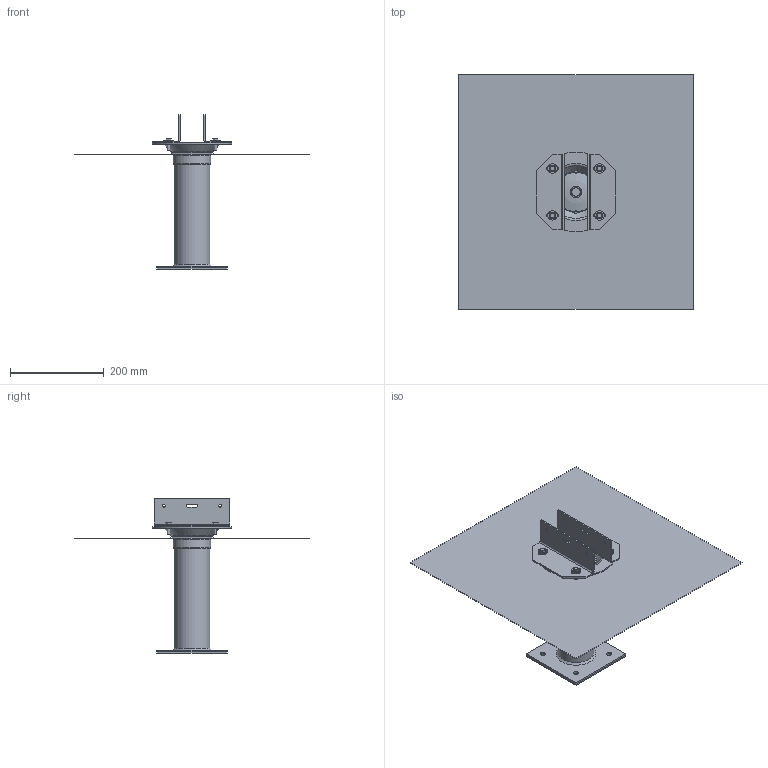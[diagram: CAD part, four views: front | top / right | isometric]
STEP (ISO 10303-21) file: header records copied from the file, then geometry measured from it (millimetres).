
FILE_DESCRIPTION(/* description */ ('PIN Typ A auf Beton mit Dämmung 240 mm und Bitumen'),/* implementation_level */ '2;1');
FILE_NAME(/* name */ '777-101-240_PIN-A-B-BI.stp',/* time_stamp */ '2024-01-15T11:47:43+01:00',/* author */ ('fstrolz'),/* organization */ (''),/* preprocessor_version */ 'ST-DEVELOPER v19.2',/* originating_system */ 'Autodesk Inventor 2023',/* authorisation */ '');
FILE_SCHEMA (('AUTOMOTIVE_DESIGN { 1 0 10303 214 3 1 1 }'));
Length unit declared in the file: millimetre
Products named in the file (21): 777-101-240_PIN-A-B-BI; 777-501; 777-502; 777-503; 777-601_240; 777-601_01; 777-601_02; 777-601_240_1; 777-601_03; 777-601_04; 777-603; 777-604; 777-605; 777-607; 777-613; 777-612; 777-610; 777-611; 777-504; DIN 6921 - M6 x 20; DIN 125 - A 10,5
Assembly tree (25 placements, depth 3):
  777-101-240_PIN-A-B-BI
    777-501
    777-502
    777-503  x2
    777-601_240
      777-601_01
      777-601_02
      777-601_240_1
      777-601_03
      777-601_04
    777-603
    777-604
    777-605
    777-607
    777-613
    777-612  x2
    777-610
    777-611
    777-504  x4
      DIN 6921 - M6 x 20
      DIN 125 - A 10,5
Bounding box: 500 x 500 x 329.42 mm (x, y, z)
Volume: 1034653.5 mm3; surface area: 888611.1 mm2
Topology: 26 solids, 26 shells, 299 faces, 693 edges, 446 vertices
Faces by surface type: plane 146, cylinder 78, cone 51, torus 15, bspline 8, sphere 1
Full cylindrical faces by diameter (mm): 3.5 x2, 4 x2, 5 x2, 5.2 x2, 5.7 x4, 6 x10, 7 x2, 10.106 x1, 10.5 x4, 11 x9, 12 x1, 12.5 x2, 13 x3, 14 x1, 16.63 x1, 20 x4, 24 x1, 50 x1, 69.7 x1, 69.8 x1, 70.3 x3, 71 x1, 76.1 x2, 80 x1, 170.033 x1
Entity records: 7238 total; most frequent: CARTESIAN_POINT 1588, DIRECTION 1093, ORIENTED_EDGE 938, EDGE_CURVE 469, AXIS2_PLACEMENT_3D 445, VERTEX_POINT 302, EDGE_LOOP 273, CIRCLE 207
